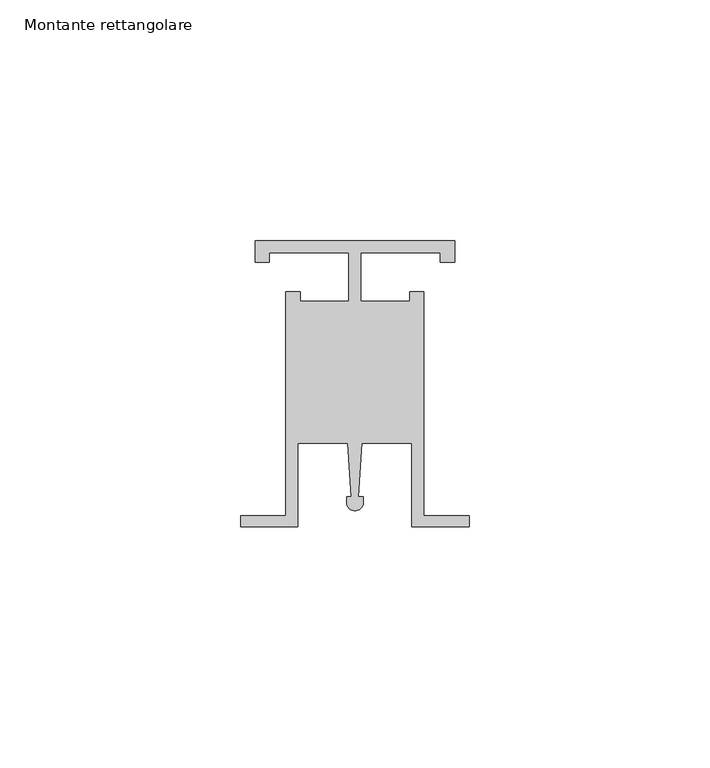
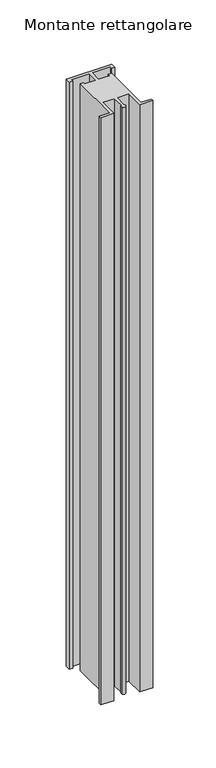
"""IFC4 building model written with IfcOpenShell, lengths in millimetres: member geometry, Montante rettangolare : Verde Profilo's Uprights."""

import ifcopenshell
import ifcopenshell.guid

model = None  # the IFC model being written
_history = None  # IfcOwnerHistory: only IFC2X3 demands one
_inside = {}  # id of a spatial element -> (the spatial element, [elements in it])
_under = {}  # id of a project, library or spatial element -> (it, [spatial elements below it])
_declared = {}  # id of a project -> (the project, [libraries it declares])
_typed = {}  # id of a type object -> (the type object, [elements of that type])
_made_of = {}  # id of a material, layer set ... -> (it, [elements and type objects made of it])


def new_model(schema):
    """Start an empty IFC model of exactly this schema.

    Asked for "IFC4X3", IfcOpenShell would pick the latest addendum, in which some entities
    have other attributes; the version numbers below select the first issue.
    IFC2X3 requires an IfcOwnerHistory on every rooted entity: one is made here for all.
    """
    global model, _history
    if schema == "IFC4X3":
        model = ifcopenshell.file(schema_version=(4, 3, 0, 0))
    else:
        model = ifcopenshell.file(schema=schema)
    _inside.clear()
    _under.clear()
    _declared.clear()
    _typed.clear()
    _made_of.clear()
    _history = None
    if model.schema == "IFC2X3":
        org = make("IfcOrganization", Name="unknown")
        user = make(
            "IfcPersonAndOrganization",
            ThePerson=make("IfcPerson", FamilyName="unknown"),
            TheOrganization=org,
        )
        app = make(
            "IfcApplication",
            ApplicationDeveloper=org,
            Version="unknown",
            ApplicationFullName="unknown",
            ApplicationIdentifier="unknown",
        )
        _history = make(
            "IfcOwnerHistory",
            OwningUser=user,
            OwningApplication=app,
            ChangeAction="ADDED",
            CreationDate=0,
        )
    return model


def make(cls, **values):
    """One entity of the class cls with the attributes given. An attribute that is None is left unset."""
    return model.create_entity(
        cls, **{name: value for name, value in values.items() if value is not None}
    )


def rooted(cls, **values):
    """An entity with a GlobalId (a new one), such as an element, a storey or a relation."""
    return make(cls, GlobalId=ifcopenshell.guid.new(), OwnerHistory=_history, **values)


def si_unit(unit_type, name, prefix=None):
    """IfcSIUnit, for example si_unit("LENGTHUNIT", "METRE", prefix="MILLI")."""
    return make("IfcSIUnit", UnitType=unit_type, Prefix=prefix, Name=name)


def assignment(units):
    """IfcUnitAssignment: the units of a project."""
    return None if units is None else make("IfcUnitAssignment", Units=units)


def point(xyz):
    """IfcCartesianPoint."""
    return None if xyz is None else make("IfcCartesianPoint", Coordinates=xyz)


def direction(xyz):
    """IfcDirection."""
    return None if xyz is None else make("IfcDirection", DirectionRatios=xyz)


def frame(location, z_axis=None, x_axis=None):
    """IfcAxis2Placement3D, a coordinate frame: its origin and axes. An axis left out is left unset."""
    return make(
        "IfcAxis2Placement3D",
        Location=point(location),
        Axis=direction(z_axis),
        RefDirection=direction(x_axis),
    )


def frame_2d(location, x_axis=None):
    """IfcAxis2Placement2D, a coordinate frame in the plane: its origin and x axis."""
    return make(
        "IfcAxis2Placement2D", Location=point(location), RefDirection=direction(x_axis)
    )


def origin():
    """The frame at (0, 0, 0) with its axes left unset."""
    return frame((0.0, 0.0, 0.0))


def place(relative_to, where):
    """IfcLocalPlacement: puts the frame where relative to a parent placement (None: the world)."""
    return make(
        "IfcLocalPlacement", PlacementRelTo=relative_to, RelativePlacement=where
    )


def context(
    kind, dimensions, precision=None, world=None, true_north=None, identifier=None
):
    """IfcGeometricRepresentationContext, for example the 3D "Model" context."""
    return make(
        "IfcGeometricRepresentationContext",
        ContextIdentifier=identifier,
        ContextType=kind,
        CoordinateSpaceDimension=dimensions,
        Precision=precision,
        WorldCoordinateSystem=world,
        TrueNorth=true_north,
    )


def project(units=None, contexts=None):
    """IfcProject with its units and contexts."""
    return rooted(
        "IfcProject",
        Name="project",
        RepresentationContexts=contexts,
        UnitsInContext=assignment(units),
    )


def spatial(cls, under=None, at=None, **own):
    """A site, building, storey or space (cls), placed at a placement, below another one or the project."""
    s = rooted(cls, ObjectPlacement=at, **own)
    if under is not None:
        _under.setdefault(under.id(), (under, []))[1].append(s)
    return s


def polyline(points):
    """IfcPolyline through the points."""
    return make("IfcPolyline", Points=[point(p) for p in points])


def circle_curve(where, radius):
    """IfcCircle in the frame where."""
    return make("IfcCircle", Position=where, Radius=radius)


def trimmed(basis, trim1, trim2, sense, master):
    """IfcTrimmedCurve: the piece of a basis curve between two trims."""
    return make(
        "IfcTrimmedCurve",
        BasisCurve=basis,
        Trim1=trim1,
        Trim2=trim2,
        SenseAgreement=sense,
        MasterRepresentation=master,
    )


def segment(curve, same_sense, transition):
    """IfcCompositeCurveSegment."""
    return make(
        "IfcCompositeCurveSegment",
        Transition=transition,
        SameSense=same_sense,
        ParentCurve=curve,
    )


def composite_curve(segments, self_intersect=None):
    """IfcCompositeCurve: segments joined end to end."""
    return make("IfcCompositeCurve", Segments=segments, SelfIntersect=self_intersect)


def outline(outer, holes=None, kind="AREA"):
    """IfcArbitraryClosedProfileDef: a profile drawn as a closed curve; with holes, ...WithVoids."""
    if holes is None:
        return make("IfcArbitraryClosedProfileDef", ProfileType=kind, OuterCurve=outer)
    return make(
        "IfcArbitraryProfileDefWithVoids",
        ProfileType=kind,
        OuterCurve=outer,
        InnerCurves=holes,
    )


def extrude(swept, where, along, depth):
    """IfcExtrudedAreaSolid: the profile swept, set in the frame where, extruded along a direction by depth."""
    return make(
        "IfcExtrudedAreaSolid",
        SweptArea=swept,
        Position=where,
        ExtrudedDirection=direction(along),
        Depth=depth,
    )


def shape(context_of_items, identifier, shape_type, items):
    """IfcShapeRepresentation: the items that make up one representation, for example the "Body"."""
    return make(
        "IfcShapeRepresentation",
        ContextOfItems=context_of_items,
        RepresentationIdentifier=identifier,
        RepresentationType=shape_type,
        Items=items,
    )


def source(mapping_origin, context_of_items, identifier, shape_type, items):
    """IfcRepresentationMap: a shape defined once, which mapped items show again and again."""
    return make(
        "IfcRepresentationMap",
        MappingOrigin=mapping_origin,
        MappedRepresentation=shape(context_of_items, identifier, shape_type, items),
    )


def transform(
    local_origin,
    x_axis=None,
    y_axis=None,
    z_axis=None,
    scale=None,
    scale2=None,
    scale3=None,
    uniform=True,
):
    """IfcCartesianTransformationOperator3D, or its non-uniform kind. x_axis, y_axis, z_axis: its Axis1, 2, 3."""
    if uniform:
        return make(
            "IfcCartesianTransformationOperator3D",
            Axis1=direction(x_axis),
            Axis2=direction(y_axis),
            LocalOrigin=point(local_origin),
            Scale=scale,
            Axis3=direction(z_axis),
        )
    return make(
        "IfcCartesianTransformationOperator3DnonUniform",
        Axis1=direction(x_axis),
        Axis2=direction(y_axis),
        LocalOrigin=point(local_origin),
        Scale=scale,
        Axis3=direction(z_axis),
        Scale2=scale2,
        Scale3=scale3,
    )


def mapped(mapping_source, mapping_target):
    """IfcMappedItem: shows the shape of a source again, moved by a transform."""
    return make(
        "IfcMappedItem", MappingSource=mapping_source, MappingTarget=mapping_target
    )


def made_of(thing, what):
    """Note that an element or type object is made of a material, layer set ...; save() writes the relation."""
    if what is not None:
        _made_of.setdefault(what.id(), (what, []))[1].append(thing)
    return thing


def element(
    cls,
    number,
    at=None,
    inside=None,
    cuts=None,
    type_object=None,
    material=None,
    context=None,
    identifier="Body",
    shape_type=None,
    held_by="IfcProductDefinitionShape",
    body=None,
    shapes=None,
    **own,
):
    """One element of the class cls, such as IfcWall. Its Tag is "e" and its number.

    at: its placement. inside: the storey or other place that contains it. cuts: it is an
    opening in that element (IfcRelVoidsElement). A single representation is given by context,
    identifier, shape_type and body (its items); several are given by shapes. held_by: the class
    of the entity that holds the representations. save() writes the other relations.
    """
    e = rooted(cls, Tag="e%d" % number, ObjectPlacement=at, **own)
    if body is not None:
        shapes = [shape(context, identifier, shape_type, body)]
    if shapes is not None:
        e.Representation = make(held_by, Representations=shapes)
    if inside is not None:
        _inside.setdefault(inside.id(), (inside, []))[1].append(e)
    if cuts is not None:
        rooted(
            "IfcRelVoidsElement", RelatingBuildingElement=cuts, RelatedOpeningElement=e
        )
    if type_object is not None:
        _typed.setdefault(type_object.id(), (type_object, []))[1].append(e)
    return made_of(e, material)


def aggregate(whole, parts):
    """IfcRelAggregates: a whole, such as a stair, and the parts it consists of."""
    return rooted("IfcRelAggregates", RelatingObject=whole, RelatedObjects=parts)


def save(model, path):
    """Write the relations noted so far, then the file.

    IfcRelAggregates (storeys below a building ...), IfcRelContainedInSpatialStructure (elements
    in a storey), IfcRelDefinesByType, IfcRelAssociatesMaterial and IfcRelDeclares: one each for
    every whole, place, type object, material and project.
    """
    for whole, parts in _under.values():
        aggregate(whole, parts)
    for where, things in _inside.values():
        rooted(
            "IfcRelContainedInSpatialStructure",
            RelatedElements=things,
            RelatingStructure=where,
        )
    for kind, things in _typed.values():
        rooted("IfcRelDefinesByType", RelatedObjects=things, RelatingType=kind)
    for what, things in _made_of.values():
        rooted("IfcRelAssociatesMaterial", RelatedObjects=things, RelatingMaterial=what)
    for by, libraries in _declared.values():
        rooted("IfcRelDeclares", RelatingContext=by, RelatedDefinitions=libraries)
    model.write(path)


def montante_rettangolare_1f09e3fa(model_context):
    return source(origin(), model_context, "Body", "SweptSolid", [
        extrude(outline(composite_curve([segment(polyline([(-3.0, 0.0), (-3.0, -4.4643434), (-5.9763281, -4.4643434), (-5.9763281, -2.4801246), (-22.5192241, -2.4801246), (-22.5192241, -12.5992217), (-12.4008018, -12.5992217), (-12.4008018, -10.6150029), (-9.4244736, -10.6150029), (-9.4244736, -57.1992491), (0.0, -57.1992491), (0.0, -59.5229914), (-11.9045983, -59.5229914), (-11.9045983, -42.1200913), (-22.2878429, -42.1200913), (-23.0155567, -53.2310496), (-22.0219337, -53.2310496), (-22.0219337, -54.4070013)]), True, "CONTINUOUS"), segment(trimmed(circle_curve(frame_2d((-23.7595941, -54.4070013)), 1.7376604), [point((-22.0219337, -54.4070013))], [point((-25.4972545, -54.4070013))], False, "CARTESIAN"), True, "CONTINUOUS"), segment(polyline([(-25.4972545, -54.4070013), (-25.4972545, -53.2310496), (-24.5036314, -53.2310496), (-25.2313452, -42.1200913), (-35.6145898, -42.1200913), (-35.6145898, -59.5229914), (-47.5191881, -59.5229914), (-47.5191881, -57.1992491), (-38.0947145, -57.1992491), (-38.0947145, -10.6150029), (-35.1183863, -10.6150029), (-35.1183863, -12.5992217), (-24.999964, -12.5992217), (-24.999964, -2.4801246), (-41.54286, -2.4801246), (-41.54286, -4.4643434), (-44.5191881, -4.4643434), (-44.5191881, 0.0), (-3.0, 0.0)]), True, "CONTINUOUS")], self_intersect=False)), frame((0.0, 0.0, -567.5198754), z_axis=(0.0, 0.0, 1.0), x_axis=(1.0, 0.0, 0.0)), (0.0, 0.0, 1.0), 567.5198754),
    ])


if __name__ == "__main__":
    model = new_model("IFC4")
    model_context = context("Model", 3, world=origin())
    ifc_project = project(units=[si_unit("LENGTHUNIT", "METRE", prefix="MILLI")], contexts=[model_context])
    site = spatial("IfcSite", under=ifc_project)
    building = spatial("IfcBuilding", under=site)
    placement = place(None, origin())
    montante_rettangolare_shape = montante_rettangolare_1f09e3fa(model_context)
    element("IfcMember", 1, ObjectType="Montante rettangolare : Verde Profilo's Uprights", at=placement, inside=building, context=model_context, shape_type="MappedRepresentation", body=[
        mapped(montante_rettangolare_shape, transform((0.0, 0.0, 0.0), x_axis=(1.0, 0.0, 0.0), y_axis=(0.0, 1.0, 0.0), z_axis=(0.0, 0.0, 1.0))),
    ])
    save(model, "model.ifc")
